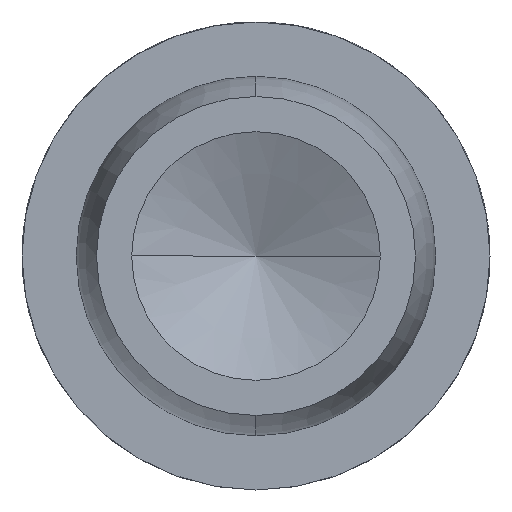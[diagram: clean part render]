
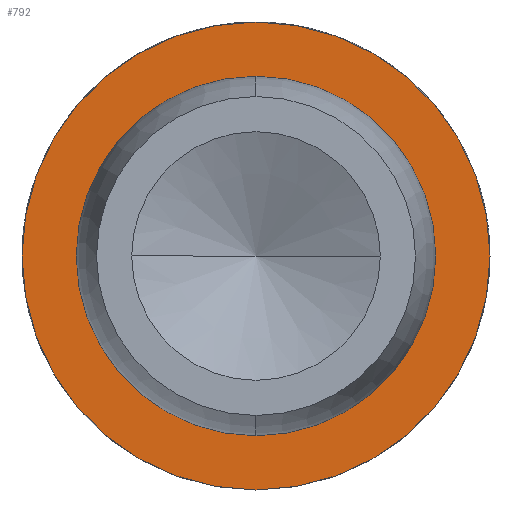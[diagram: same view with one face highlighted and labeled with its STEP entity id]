
A CAD part, left-side view. The second image highlights one B-rep face of the part: STEP entity #792.
In plain terms, the highlighted planar face has unit normal (-1, 0, 0).
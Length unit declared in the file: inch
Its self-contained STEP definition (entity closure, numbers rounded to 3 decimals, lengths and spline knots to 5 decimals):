
#9 = ORIENTED_EDGE ( 'NONE', *, *, #36, .T. ) ;
#35 = DIRECTION ( 'NONE',  ( -1., 0., 0. ) ) ;
#36 = EDGE_CURVE ( 'NONE', #1046, #291, #400, .T. ) ;
#56 = DIRECTION ( 'NONE',  ( -1., 0., 0. ) ) ;
#69 = CIRCLE ( 'NONE', #144, 0.3125 ) ;
#82 = CIRCLE ( 'NONE', #897, 0.24 ) ;
#135 = EDGE_CURVE ( 'NONE', #916, #872, #82, .T. ) ;
#143 = FACE_BOUND ( 'NONE', #732, .T. ) ;
#144 = AXIS2_PLACEMENT_3D ( 'NONE', #685, #35, #948 ) ;
#152 = EDGE_CURVE ( 'NONE', #872, #916, #645, .T. ) ;
#156 = CARTESIAN_POINT ( 'NONE',  ( -1.125, 0., -0.3125 ) ) ;
#160 = DIRECTION ( 'NONE',  ( -1., 0., 0. ) ) ;
#161 = CARTESIAN_POINT ( 'NONE',  ( -1.125, 0., 0. ) ) ;
#171 = DIRECTION ( 'NONE',  ( 0., 0., 1. ) ) ;
#177 = ORIENTED_EDGE ( 'NONE', *, *, #135, .F. ) ;
#178 = ORIENTED_EDGE ( 'NONE', *, *, #152, .F. ) ;
#250 = ORIENTED_EDGE ( 'NONE', *, *, #1082, .T. ) ;
#291 = VERTEX_POINT ( 'NONE', #1032 ) ;
#378 = DIRECTION ( 'NONE',  ( 0., 0., 1. ) ) ;
#400 = CIRCLE ( 'NONE', #935, 0.3125 ) ;
#421 = AXIS2_PLACEMENT_3D ( 'NONE', #807, #673, #911 ) ;
#495 = DIRECTION ( 'NONE',  ( -1., 0., 0. ) ) ;
#548 = EDGE_LOOP ( 'NONE', ( #250, #9 ) ) ;
#565 = PLANE ( 'NONE',  #421 ) ;
#645 = CIRCLE ( 'NONE', #849, 0.24 ) ;
#673 = DIRECTION ( 'NONE',  ( -1., 0., 0. ) ) ;
#685 = CARTESIAN_POINT ( 'NONE',  ( -1.125, 0., 0. ) ) ;
#732 = EDGE_LOOP ( 'NONE', ( #178, #177 ) ) ;
#735 = CARTESIAN_POINT ( 'NONE',  ( -1.125, 0., 0.24 ) ) ;
#792 = ADVANCED_FACE ( 'NONE', ( #1131, #143 ), #565, .T. ) ;
#799 = DIRECTION ( 'NONE',  ( 0., 0., 1. ) ) ;
#807 = CARTESIAN_POINT ( 'NONE',  ( -1.125, 0., -0.24 ) ) ;
#823 = CARTESIAN_POINT ( 'NONE',  ( -1.125, 0., 0. ) ) ;
#849 = AXIS2_PLACEMENT_3D ( 'NONE', #977, #495, #378 ) ;
#872 = VERTEX_POINT ( 'NONE', #735 ) ;
#897 = AXIS2_PLACEMENT_3D ( 'NONE', #823, #56, #171 ) ;
#911 = DIRECTION ( 'NONE',  ( 0., 0., 1. ) ) ;
#916 = VERTEX_POINT ( 'NONE', #921 ) ;
#921 = CARTESIAN_POINT ( 'NONE',  ( -1.125, 0., -0.24 ) ) ;
#935 = AXIS2_PLACEMENT_3D ( 'NONE', #161, #160, #799 ) ;
#948 = DIRECTION ( 'NONE',  ( 0., 0., 1. ) ) ;
#977 = CARTESIAN_POINT ( 'NONE',  ( -1.125, 0., 0. ) ) ;
#1032 = CARTESIAN_POINT ( 'NONE',  ( -1.125, 0., 0.3125 ) ) ;
#1046 = VERTEX_POINT ( 'NONE', #156 ) ;
#1082 = EDGE_CURVE ( 'NONE', #291, #1046, #69, .T. ) ;
#1131 = FACE_OUTER_BOUND ( 'NONE', #548, .T. ) ;
